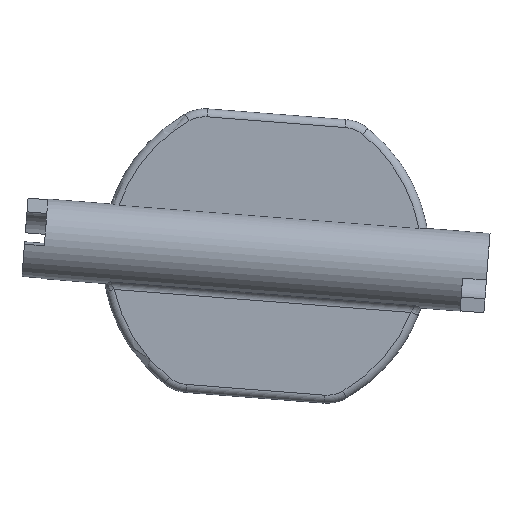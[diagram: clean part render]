
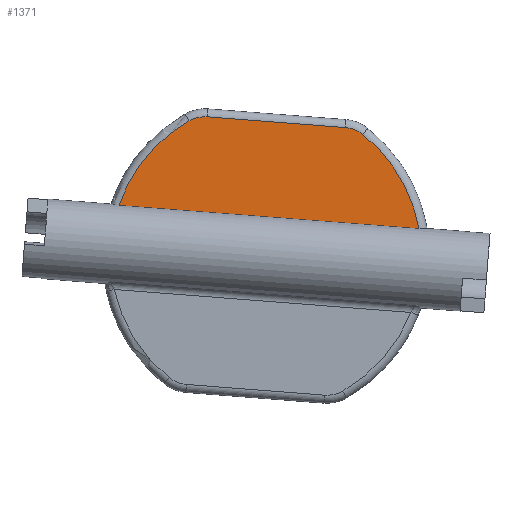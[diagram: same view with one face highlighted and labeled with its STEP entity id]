
A CAD part, front view. The second image highlights one B-rep face of the part: STEP entity #1371.
In plain terms, the highlighted planar face has unit normal (0, -1, 0).
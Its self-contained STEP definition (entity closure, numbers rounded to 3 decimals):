
#1=DIRECTION('',(0.997,0.,-0.077));
#2=VECTOR('',#1,37.749);
#3=CARTESIAN_POINT('',(807.186,-1.,130.04));
#4=LINE('',#3,#2);
#5=CARTESIAN_POINT('',(825.625,-1.,123.696));
#6=DIRECTION('',(0.,1.,0.));
#7=DIRECTION('',(-0.946,0.,0.325));
#8=AXIS2_PLACEMENT_3D('',#5,#6,#7);
#10=CARTESIAN_POINT('',(817.953,-1.,137.165));
#11=DIRECTION('',(0.,1.,0.));
#12=DIRECTION('',(-0.495,0.,0.869));
#13=AXIS2_PLACEMENT_3D('',#10,#11,#12);
#15=DIRECTION('',(0.997,0.,-0.077));
#16=VECTOR('',#15,17.38);
#17=CARTESIAN_POINT('',(818.263,-1.,141.153));
#18=LINE('',#17,#16);
#19=CARTESIAN_POINT('',(835.281,-1.,135.821));
#20=DIRECTION('',(0.,1.,0.));
#21=DIRECTION('',(0.077,0.,0.997));
#22=AXIS2_PLACEMENT_3D('',#19,#20,#21);
#24=CARTESIAN_POINT('',(825.625,-1.,123.696));
#25=DIRECTION('',(0.,1.,0.));
#26=DIRECTION('',(0.623,0.,0.782));
#27=AXIS2_PLACEMENT_3D('',#24,#25,#26);
#1173=CARTESIAN_POINT('',(807.186,-1.,130.04));
#1174=CARTESIAN_POINT('',(844.822,-1.,127.122));
#1175=VERTEX_POINT('',#1173);
#1176=VERTEX_POINT('',#1174);
#1344=CARTESIAN_POINT('',(837.773,-1.,138.95));
#1345=VERTEX_POINT('',#1344);
#1346=CARTESIAN_POINT('',(835.59,-1.,139.809));
#1347=VERTEX_POINT('',#1346);
#1348=CARTESIAN_POINT('',(818.263,-1.,141.153));
#1349=VERTEX_POINT('',#1348);
#1350=CARTESIAN_POINT('',(815.974,-1.,140.641));
#1351=VERTEX_POINT('',#1350);
#1352=CARTESIAN_POINT('',(0.,-1.,0.));
#1353=DIRECTION('',(0.,1.,0.));
#1354=DIRECTION('',(1.,0.,0.));
#1355=AXIS2_PLACEMENT_3D('',#1352,#1353,#1354);
#1356=PLANE('',#1355);
#1358=ORIENTED_EDGE('',*,*,#1357,.F.);
#1360=ORIENTED_EDGE('',*,*,#1359,.T.);
#1362=ORIENTED_EDGE('',*,*,#1361,.T.);
#1364=ORIENTED_EDGE('',*,*,#1363,.T.);
#1366=ORIENTED_EDGE('',*,*,#1365,.T.);
#1368=ORIENTED_EDGE('',*,*,#1367,.T.);
#1369=EDGE_LOOP('',(#1358,#1360,#1362,#1364,#1366,#1368));
#1370=FACE_OUTER_BOUND('',#1369,.F.);
#1371=ADVANCED_FACE('',(#1370),#1356,.F.);
#9=CIRCLE('',#8,19.5);
#14=CIRCLE('',#13,4.);
#23=CIRCLE('',#22,4.);
#28=CIRCLE('',#27,19.5);
#1357=EDGE_CURVE('',#1175,#1176,#4,.T.);
#1359=EDGE_CURVE('',#1175,#1351,#9,.T.);
#1361=EDGE_CURVE('',#1351,#1349,#14,.T.);
#1363=EDGE_CURVE('',#1349,#1347,#18,.T.);
#1365=EDGE_CURVE('',#1347,#1345,#23,.T.);
#1367=EDGE_CURVE('',#1345,#1176,#28,.T.);
